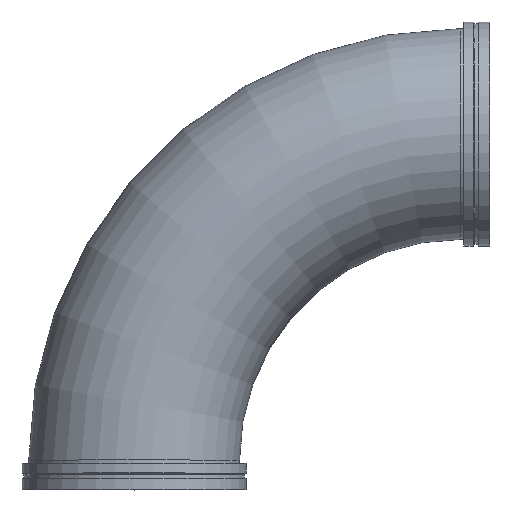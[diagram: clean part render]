
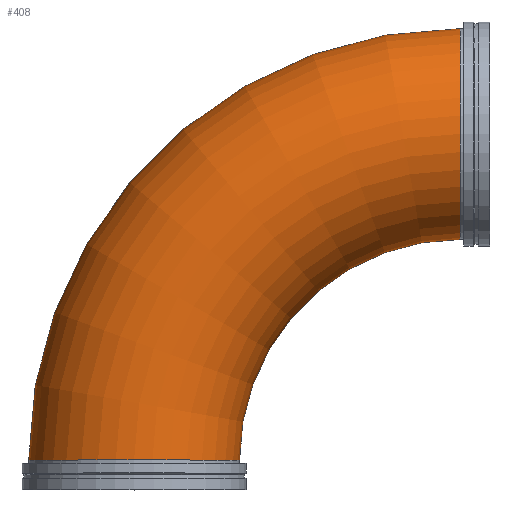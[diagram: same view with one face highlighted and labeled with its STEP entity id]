
A CAD part, top view. The second image highlights one B-rep face of the part: STEP entity #408.
In plain terms, the highlighted toroidal (fillet/blend) face has major radius 1257.3 mm and minor radius 406.4 mm.
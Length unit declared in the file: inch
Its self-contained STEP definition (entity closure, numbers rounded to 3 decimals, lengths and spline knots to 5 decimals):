
#46=TOROIDAL_SURFACE('',#484,49.5,16.);
#105=FACE_OUTER_BOUND('',#129,.T.);
#129=EDGE_LOOP('',(#346,#347,#348,#349,#350,#351));
#169=CIRCLE('',#482,16.);
#170=CIRCLE('',#483,16.);
#171=CIRCLE('',#485,33.5);
#172=CIRCLE('',#486,16.);
#173=CIRCLE('',#487,16.);
#207=VERTEX_POINT('',#756);
#208=VERTEX_POINT('',#758);
#209=VERTEX_POINT('',#762);
#210=VERTEX_POINT('',#764);
#256=EDGE_CURVE('',#207,#208,#169,.T.);
#257=EDGE_CURVE('',#208,#207,#170,.T.);
#258=EDGE_CURVE('',#208,#209,#171,.T.);
#259=EDGE_CURVE('',#209,#210,#172,.T.);
#260=EDGE_CURVE('',#210,#209,#173,.T.);
#346=ORIENTED_EDGE('',*,*,#256,.F.);
#347=ORIENTED_EDGE('',*,*,#257,.F.);
#348=ORIENTED_EDGE('',*,*,#258,.T.);
#349=ORIENTED_EDGE('',*,*,#259,.T.);
#350=ORIENTED_EDGE('',*,*,#260,.T.);
#351=ORIENTED_EDGE('',*,*,#258,.F.);
#408=ADVANCED_FACE('',(#105),#46,.T.);
#482=AXIS2_PLACEMENT_3D('',#759,#617,#618);
#483=AXIS2_PLACEMENT_3D('',#760,#619,#620);
#484=AXIS2_PLACEMENT_3D('',#761,#621,#622);
#485=AXIS2_PLACEMENT_3D('',#763,#623,#624);
#486=AXIS2_PLACEMENT_3D('',#765,#625,#626);
#487=AXIS2_PLACEMENT_3D('',#766,#627,#628);
#617=DIRECTION('center_axis',(1.,0.,0.));
#618=DIRECTION('ref_axis',(0.,-1.,0.));
#619=DIRECTION('center_axis',(1.,0.,0.));
#620=DIRECTION('ref_axis',(0.,-1.,0.));
#621=DIRECTION('center_axis',(0.,0.,-1.));
#622=DIRECTION('ref_axis',(-1.,0.,0.));
#623=DIRECTION('center_axis',(0.,0.,1.));
#624=DIRECTION('ref_axis',(-1.,0.,0.));
#625=DIRECTION('center_axis',(0.,1.,0.));
#626=DIRECTION('ref_axis',(1.,0.,0.));
#627=DIRECTION('center_axis',(0.,1.,0.));
#628=DIRECTION('ref_axis',(1.,0.,0.));
#756=CARTESIAN_POINT('',(49.5,70.,0.));
#758=CARTESIAN_POINT('',(49.5,38.,0.));
#759=CARTESIAN_POINT('Origin',(49.5,54.,0.));
#760=CARTESIAN_POINT('Origin',(49.5,54.,0.));
#761=CARTESIAN_POINT('Origin',(49.5,4.5,0.));
#762=CARTESIAN_POINT('',(16.,4.5,0.));
#763=CARTESIAN_POINT('Origin',(49.5,4.5,0.));
#764=CARTESIAN_POINT('',(-16.,4.5,0.));
#765=CARTESIAN_POINT('Origin',(0.,4.5,0.));
#766=CARTESIAN_POINT('Origin',(0.,4.5,0.));
